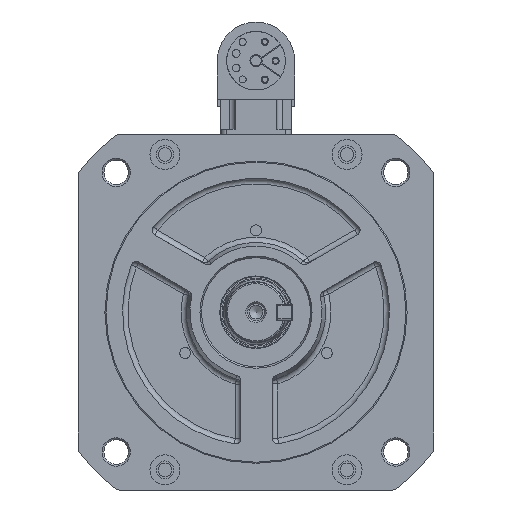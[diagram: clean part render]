
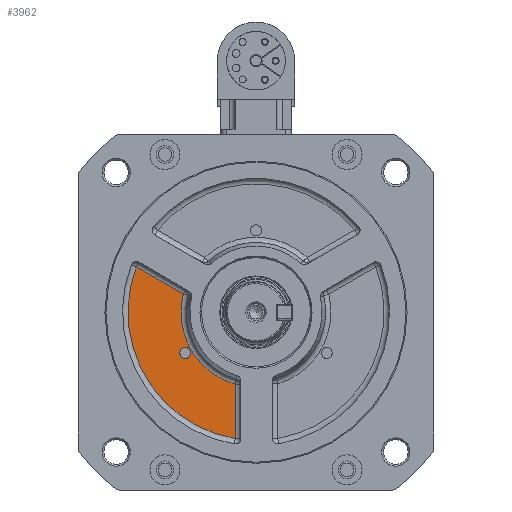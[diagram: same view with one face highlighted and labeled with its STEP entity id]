
A CAD part, left-side view. The second image highlights one B-rep face of the part: STEP entity #3962.
In plain terms, the highlighted planar face has unit normal (-1, 0, 0) as drawn and (0, -1, 0) by its records, which use the part's own axes.
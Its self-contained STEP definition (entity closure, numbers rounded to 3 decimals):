
#3962 = ADVANCED_FACE( '', ( #8725, #8726 ), #8727, .T. );
#8725 = FACE_OUTER_BOUND( '', #17060, .T. );
#8726 = FACE_BOUND( '', #17061, .T. );
#8727 = PLANE( '', #17062 );
#17060 = EDGE_LOOP( '', ( #29272, #29273, #29274, #29275 ) );
#17061 = EDGE_LOOP( '', ( #29276 ) );
#17062 = AXIS2_PLACEMENT_3D( '', #29277, #29278, #29279 );
#29272 = ORIENTED_EDGE( '', *, *, #40610, .T. );
#29273 = ORIENTED_EDGE( '', *, *, #40416, .T. );
#29274 = ORIENTED_EDGE( '', *, *, #40390, .T. );
#29275 = ORIENTED_EDGE( '', *, *, #40611, .T. );
#29276 = ORIENTED_EDGE( '', *, *, #40612, .T. );
#29277 = CARTESIAN_POINT( '', ( 0.069, -28., 0.04 ) );
#29278 = DIRECTION( '', ( 0., -1., 0. ) );
#29279 = DIRECTION( '', ( 0., 0., -1. ) );
#40390 = EDGE_CURVE( '', #46112, #49034, #49036, .T. );
#40416 = EDGE_CURVE( '', #49067, #46112, #49068, .T. );
#40610 = EDGE_CURVE( '', #47866, #49067, #49315, .T. );
#40611 = EDGE_CURVE( '', #49034, #47866, #49316, .T. );
#40612 = EDGE_CURVE( '', #49317, #49317, #49318, .T. );
#46112 = VERTEX_POINT( '', #59126 );
#47866 = VERTEX_POINT( '', #62266 );
#49034 = VERTEX_POINT( '', #64771 );
#49036 = LINE( '', #64773, #64774 );
#49067 = VERTEX_POINT( '', #64911 );
#49068 = CIRCLE( '', #64912, 47. );
#49315 = LINE( '', #65431, #65432 );
#49316 = CIRCLE( '', #65433, 27.5 );
#49317 = VERTEX_POINT( '', #65434 );
#49318 = CIRCLE( '', #65435, 2. );
#59126 = CARTESIAN_POINT( '', ( -7.596, -28., -46.331 ) );
#62266 = CARTESIAN_POINT( '', ( -26.687, -28., 6.637 ) );
#64771 = CARTESIAN_POINT( '', ( -7.596, -28., -26.43 ) );
#64773 = CARTESIAN_POINT( '', ( -7.596, -28., 0.04 ) );
#64774 = VECTOR( '', #74957, 1000. );
#64911 = CARTESIAN_POINT( '', ( -43.922, -28., 16.587 ) );
#64912 = AXIS2_PLACEMENT_3D( '', #74982, #74983, #74984 );
#65431 = CARTESIAN_POINT( '', ( -3.763, -28., -6.599 ) );
#65432 = VECTOR( '', #75228, 1000. );
#65433 = AXIS2_PLACEMENT_3D( '', #75229, #75230, #75231 );
#65434 = CARTESIAN_POINT( '', ( -24.249, -28., -14. ) );
#65435 = AXIS2_PLACEMENT_3D( '', #75232, #75233, #75234 );
#74957 = DIRECTION( '', ( 0., 0., 1. ) );
#74982 = CARTESIAN_POINT( '', ( 0.069, -28., 0.04 ) );
#74983 = DIRECTION( '', ( 0., -1., 0. ) );
#74984 = DIRECTION( '', ( 0., 0., -1. ) );
#75228 = DIRECTION( '', ( -0.866, 0., 0.5 ) );
#75229 = CARTESIAN_POINT( '', ( 0., -28., 0. ) );
#75230 = DIRECTION( '', ( 0., 1., 0. ) );
#75231 = DIRECTION( '', ( 0., 0., -1. ) );
#75232 = CARTESIAN_POINT( '', ( -25.981, -28., -15. ) );
#75233 = DIRECTION( '', ( 0., 1., 0. ) );
#75234 = DIRECTION( '', ( 0.866, 0., 0.5 ) );
